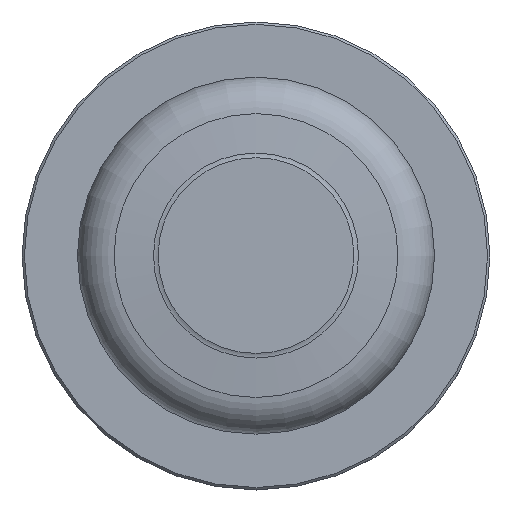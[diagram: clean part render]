
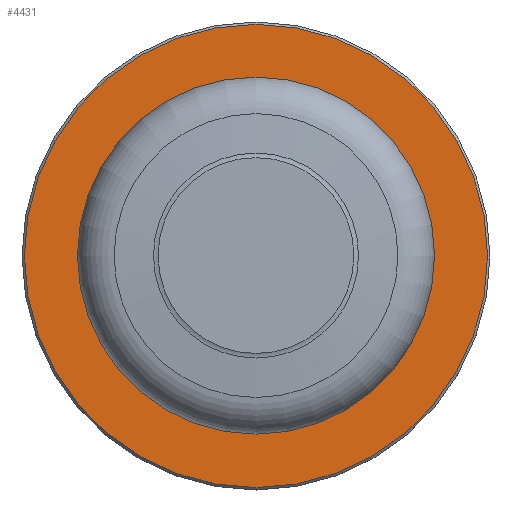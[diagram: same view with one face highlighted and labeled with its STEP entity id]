
A CAD part, top view. The second image highlights one B-rep face of the part: STEP entity #4431.
In plain terms, the highlighted planar face has unit normal (0, 0, 1) as drawn and (0, 1, 0) by its records, which use the part's own axes.
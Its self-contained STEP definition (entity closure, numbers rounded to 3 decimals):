
#4431=ADVANCED_FACE('AC_MATE2',(#4927),#4812,.F.);
#4812=PLANE('',#8892);
#4927=FACE_OUTER_BOUND('',#5199,.T.);
#5199=EDGE_LOOP('',(#5722));
#5722=ORIENTED_EDGE('',*,*,#7837,.T.);
#7296=VERTEX_POINT('',#11224);
#7837=EDGE_CURVE('',#7296,#7296,#8625,.T.);
#8625=CIRCLE('',#8891,24.25);
#8891=AXIS2_PLACEMENT_3D('',#11223,#9575,#9576);
#8892=AXIS2_PLACEMENT_3D('',#11225,#9577,#9578);
#9575=DIRECTION('',(0.,1.,0.));
#9576=DIRECTION('',(1.,0.,0.));
#9577=DIRECTION('',(0.,-1.,0.));
#9578=DIRECTION('',(1.,0.,0.));
#11223=CARTESIAN_POINT('',(0.,14.005,0.));
#11224=CARTESIAN_POINT('',(24.25,14.005,0.));
#11225=CARTESIAN_POINT('',(18.733,14.005,0.));
